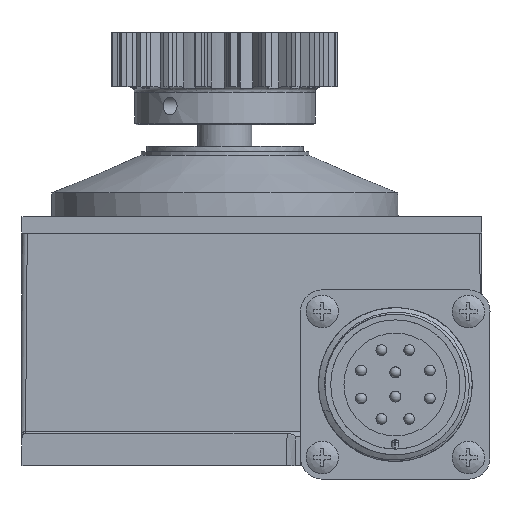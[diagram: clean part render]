
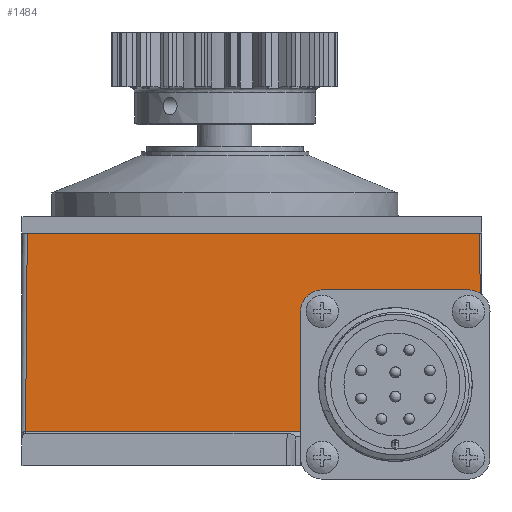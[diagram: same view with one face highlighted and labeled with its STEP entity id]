
A CAD part, left-side view. The second image highlights one B-rep face of the part: STEP entity #1484.
In plain terms, the highlighted planar face has unit normal (-1, 0, 0.009).
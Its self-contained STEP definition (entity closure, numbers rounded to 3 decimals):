
#1484 = ADVANCED_FACE( '', ( #3457 ), #3458, .T. );
#3457 = FACE_OUTER_BOUND( '', #6482, .T. );
#3458 = PLANE( '', #6483 );
#6482 = EDGE_LOOP( '', ( #11875, #11876, #11877, #11878, #11879, #11880, #11881 ) );
#6483 = AXIS2_PLACEMENT_3D( '', #11882, #11883, #11884 );
#11875 = ORIENTED_EDGE( '', *, *, #15970, .T. );
#11876 = ORIENTED_EDGE( '', *, *, #16542, .T. );
#11877 = ORIENTED_EDGE( '', *, *, #16543, .T. );
#11878 = ORIENTED_EDGE( '', *, *, #16544, .T. );
#11879 = ORIENTED_EDGE( '', *, *, #16545, .T. );
#11880 = ORIENTED_EDGE( '', *, *, #15946, .T. );
#11881 = ORIENTED_EDGE( '', *, *, #16415, .T. );
#11882 = CARTESIAN_POINT( '', ( -33.026, 14.325, -21.7 ) );
#11883 = DIRECTION( '', ( -1., 0., 0.009 ) );
#11884 = DIRECTION( '', ( 0., 1., 0. ) );
#15946 = EDGE_CURVE( '', #18926, #18924, #18927, .T. );
#15970 = EDGE_CURVE( '', #18963, #18961, #18964, .T. );
#16415 = EDGE_CURVE( '', #18924, #18963, #19627, .T. );
#16542 = EDGE_CURVE( '', #18961, #19815, #19816, .T. );
#16543 = EDGE_CURVE( '', #19815, #19817, #19818, .T. );
#16544 = EDGE_CURVE( '', #19817, #19819, #19820, .T. );
#16545 = EDGE_CURVE( '', #19819, #18926, #19821, .T. );
#18924 = VERTEX_POINT( '', #23741 );
#18926 = VERTEX_POINT( '', #23773 );
#18927 = ELLIPSE( '', #23774, 2., 2. );
#18961 = VERTEX_POINT( '', #23815 );
#18963 = VERTEX_POINT( '', #23817 );
#18964 = LINE( '', #23818, #23819 );
#19627 = LINE( '', #25142, #25143 );
#19815 = VERTEX_POINT( '', #25596 );
#19816 = LINE( '', #25597, #25598 );
#19817 = VERTEX_POINT( '', #25599 );
#19818 = LINE( '', #25600, #25601 );
#19819 = VERTEX_POINT( '', #25602 );
#19820 = LINE( '', #25603, #25604 );
#19821 = LINE( '', #25605, #25606 );
#23741 = CARTESIAN_POINT( '', ( -32.816, 1.624, 2.3 ) );
#23773 = CARTESIAN_POINT( '', ( -32.825, 5.35, 1.309 ) );
#23774 = AXIS2_PLACEMENT_3D( '', #28647, #28648, #28649 );
#23815 = CARTESIAN_POINT( '', ( -32.706, -27.48, 15. ) );
#23817 = CARTESIAN_POINT( '', ( -32.816, -27.591, 2.3 ) );
#23818 = CARTESIAN_POINT( '', ( -33.023, -27.797, -21.332 ) );
#23819 = VECTOR( '', #28684, 1000. );
#25142 = CARTESIAN_POINT( '', ( -32.816, 14.325, 2.3 ) );
#25143 = VECTOR( '', #29180, 1000. );
#25596 = CARTESIAN_POINT( '', ( -32.706, 56.131, 15. ) );
#25597 = CARTESIAN_POINT( '', ( -32.706, 14.325, 15. ) );
#25598 = VECTOR( '', #29331, 1000. );
#25599 = CARTESIAN_POINT( '', ( -33.026, 56.451, -21.7 ) );
#25600 = CARTESIAN_POINT( '', ( -33.023, 56.448, -21.332 ) );
#25601 = VECTOR( '', #29332, 1000. );
#25602 = CARTESIAN_POINT( '', ( -33.026, 5.551, -21.7 ) );
#25603 = CARTESIAN_POINT( '', ( -33.026, 4.551, -21.7 ) );
#25604 = VECTOR( '', #29333, 1000. );
#25605 = CARTESIAN_POINT( '', ( -32.816, 5.342, 2.309 ) );
#25606 = VECTOR( '', #29334, 1000. );
#28647 = CARTESIAN_POINT( '', ( -32.825, 3.351, 1.291 ) );
#28648 = DIRECTION( '', ( 1., 0., -0.009 ) );
#28649 = DIRECTION( '', ( 0.009, 0., 1. ) );
#28684 = DIRECTION( '', ( 0.009, 0.009, 1. ) );
#29180 = DIRECTION( '', ( 0., -1., 0. ) );
#29331 = DIRECTION( '', ( 0., 1., 0. ) );
#29332 = DIRECTION( '', ( -0.009, 0.009, -1. ) );
#29333 = DIRECTION( '', ( 0., -1., 0. ) );
#29334 = DIRECTION( '', ( 0.009, -0.009, 1. ) );
